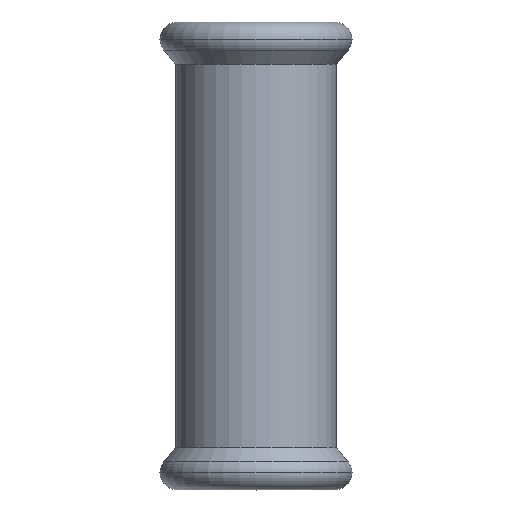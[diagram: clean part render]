
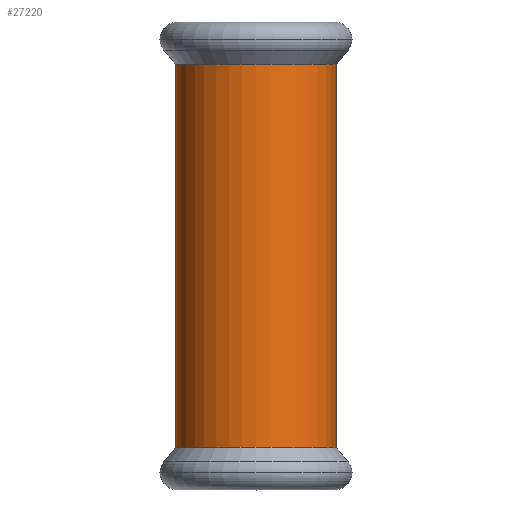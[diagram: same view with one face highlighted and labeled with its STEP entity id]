
A CAD part, top view. The second image highlights one B-rep face of the part: STEP entity #27220.
In plain terms, the highlighted cylindrical face has radius 15.65 mm (diameter 31.3 mm), a partial arc.
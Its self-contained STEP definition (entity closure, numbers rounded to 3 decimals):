
#540=CARTESIAN_POINT('',(-388.656,59.438,0.));
#550=VERTEX_POINT('',#540);
#730=CARTESIAN_POINT('',(-419.956,59.438,
0.));
#740=VERTEX_POINT('',#730);
#770=CARTESIAN_POINT('',(-404.306,59.438,0.));
#780=DIRECTION('',(0.,1.,0.));
#790=DIRECTION('',(-1.,0.,0.));
#800=AXIS2_PLACEMENT_3D('',#770,#780,#790);
#810=CIRCLE('',#800,15.65);
#15810=CARTESIAN_POINT('',(-404.306,-7.486,0.));
#15820=DIRECTION('',(0.,1.,0.));
#15830=DIRECTION('',(1.,0.,0.));
#15840=AXIS2_PLACEMENT_3D('',#15810,#15820,#15830);
#15850=CYLINDRICAL_SURFACE('',#15840,15.65);
#15860=CARTESIAN_POINT('',(-419.956,-7.486,
0.));
#15870=DIRECTION('',(0.,1.,0.));
#15880=VECTOR('',#15870,1.);
#15890=LINE('',#15860,#15880);
#15900=CARTESIAN_POINT('',(-419.956,-15.291,
0.));
#15910=VERTEX_POINT('',#15900);
#15920=EDGE_CURVE('',#15910,#740,#15890,.T.);
#15940=CARTESIAN_POINT('',(-404.306,-15.291,0.));
#15950=DIRECTION('',(0.,-1.,0.));
#15960=DIRECTION('',(1.,0.,0.));
#15970=AXIS2_PLACEMENT_3D('',#15940,#15950,#15960);
#15980=CIRCLE('',#15970,15.65);
#15990=CARTESIAN_POINT('',(-388.656,-15.291,0.));
#16000=VERTEX_POINT('',#15990);
#16030=CARTESIAN_POINT('',(-388.656,-7.486,0.));
#16040=DIRECTION('',(0.,1.,0.));
#16050=VECTOR('',#16040,1.);
#16060=LINE('',#16030,#16050);
#16070=EDGE_CURVE('',#16000,#550,#16060,.T.);
#25880=EDGE_CURVE('',#740,#550,#810,.T.);
#26530=EDGE_CURVE('',#16000,#15910,#15980,.T.);
#27160=ORIENTED_EDGE('',*,*,#26530,.F.);
#27170=ORIENTED_EDGE('',*,*,#15920,.F.);
#27180=ORIENTED_EDGE('',*,*,#25880,.F.);
#27190=ORIENTED_EDGE('',*,*,#16070,.T.);
#27200=EDGE_LOOP('',(#27190,#27180,#27170,#27160));
#27210=FACE_OUTER_BOUND('',#27200,.T.);
#27220=ADVANCED_FACE('',(#27210),#15850,.T.);
